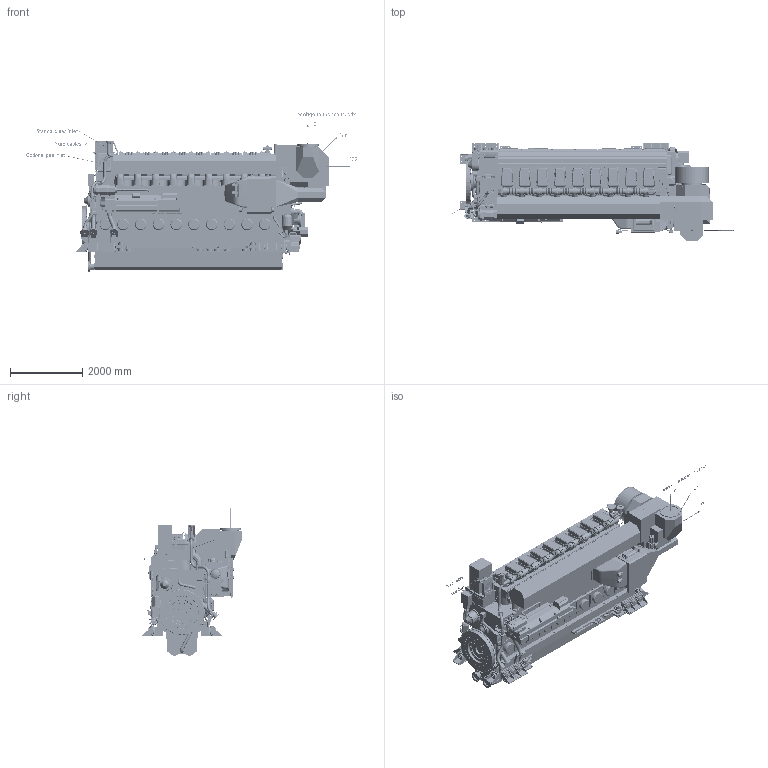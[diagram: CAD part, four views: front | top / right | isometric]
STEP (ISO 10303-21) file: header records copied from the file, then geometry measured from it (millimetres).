
FILE_DESCRIPTION(/* description */ (''),/* implementation_level */ '2;1');
FILE_NAME(/* name */ 'DAAF384942_A.stp',/* time_stamp */ '2021-12-30T13:26:57+02:00',/* author */ (''),/* organization */ (''),/* preprocessor_version */ 'ST-DEVELOPER v16.7',/* originating_system */ 'SIEMENS PLM Software NX 1915',/* authorisation */ '');
FILE_SCHEMA (('AUTOMOTIVE_DESIGN { 1 0 10303 214 3 1 1 1 }'));
Products named in the file (114): 001240145-A_STEEL PLATE; 001240140-A_STEEL PLATE; 001240143-A_STEEL PLATE; PAAC000063--_HEXAGON HEAD SCREW; 0046L028001-F_RUBBER ELEMENT; 001210004-B_0005_STEEL SHEET; 001860179-A_HOLLOW BAR; 001240079--_STEEL PLATE; 001510045-A_ROUND BAR; PAAF363131--_PAAF124545 COMPR 4MM; PAAF363124--_PAAF124545 COMPR 5MM; PAAC000444--_HEXAGON HEAD BOLT; PAAF681233--_AIR INLET PIPE; PABA142427--_Control air system WG_BP TCF; PAAF776393--_AIR INLET PIPE; PAAF074388--_END COVER; PAAF078619--_LT-WATER PIPES; PAAF243367--_GOVERNOR; PAAF486326--_AIR SYSTEM; PAAF087122--_LEAK FUEL PIPES; PAAF093447--_SEPARATOR CONNECTIONS; PAAF975683--_Gas feed pipe double wall; PAAF270351--_EQUIPMENT; PABA066964--_Double wall gas vent system; PAAF247483--_OIL PIPE; PAAF087114--_LEAK FUEL SYSTEM; PAAF978290--_Covers top shields 9L; PAAF906204--_SHUT-DOWN MECHANISM; PAAF068492--_AIR VENT SYSTEM; PABA065520--_Counter flange for HT preheating_ connection 406; PAAF087082--_A_LEAK FUEL PIPES; PAAF397145--_COVERS; PAAF322125--_TURBOCHARGER BRACKET; PAAF675626--_OIL MIST DETECTOR; PAAF063771--_COVERS; PAAF280989--_COVERS; PAAF976976--_Cylinder head covers 9L; PAAF243686--_CENTRIFUGAL FILTER; PAAF243623--_FUEL PIPES; PAAF291916--_INTERMEDIATE GEAR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
Assembly tree (308 placements, depth 6):
  DAAF384942_A-Outline drawing
    PABA332741--_W9L34DFC-TCF-DRY
      PAAF111190-A_LUBE OIL PIPES
      PAAF247485--_LUBRICATING OIL PUMP  x2
      PAAF093490--_LUBE OIL PIPES
      PAAF087136--_LUBRICATING OIL PIPES
      PAAF074478--_DRY SUMP
      PAAF063633--_ENGINE BLOCK  x2
      PAAF247479--_FRAME
      PAAF559689--_COVER
      PAAF271372--_MOTOR
      PAAF977184--_Control air system WG_BP system TC FE
      PAAF078621--_LT-WATER PIPES
      PAAF683775--_AIR INLET BOX
      PAAF245469--_LUBE OIL MODULE
      PAAF078074--_TURNING DEVICE
      PAAF243671--_PUMP COVER
      PAAF975946--_gas pipe between cylinders  x8
      PAAF202746--_CLEANING DEVICE
      PAAF975926--_main gas admission valve  x9
      PAAF721110--_DRAIN PIPE
      PAAF064319--_COVERS
      PAAF066759--_INSULATION BOX
      PAAF211503--_WASTE GATE _ BY-PASS
      PAAF238216--_CRANKSHAFT
      PAAF977365--_Electrical equipment for side cover
      PAAF277184--_TURBOCHARGER
      PAAF909498--_LOCAL CONTROL PANEL
      PAAF895907--_COVERS
      PAAF078241--_COVER
      PAAF671497--_AIR VENT PIPE
      PABA041419--_Lube oil system forr ABBA155 in free end
      PABA135981--_Electrical equipment for lube oil module_ TCFE
      PABA036864--_Cylinder heads multiducts cylinder liner
      PAAF093819--_WATER CONNECTION
      PAAF078708--_ACTUATOR
      PAAF906213--_NITROGEN GAS PIPE
      PAAF093585--_STARTING AIR PIPES
      PAAF906214--_ELECTRICAL EQUIPMENT
      PAAF087111--_LEAK FUEL SYSTEM
      PAAF291916--_INTERMEDIATE GEAR
      PAAF243623--_FUEL PIPES
      PAAF243686--_CENTRIFUGAL FILTER
      PAAF976976--_Cylinder head covers 9L
      PAAF280989--_COVERS
      PAAF063771--_COVERS
      PAAF675626--_OIL MIST DETECTOR
      PAAF322125--_TURBOCHARGER BRACKET
      PAAF397145--_COVERS
      PAAF087082--_A_LEAK FUEL PIPES
      PABA065520--_Counter flange for HT preheating_ connection 406
      PAAF068492--_AIR VENT SYSTEM
      PAAF906204--_SHUT-DOWN MECHANISM
      PAAF978290--_Covers top shields 9L
      PAAF087114--_LEAK FUEL SYSTEM
      PAAF247483--_OIL PIPE
      PABA066964--_Double wall gas vent system
      PAAF270351--_EQUIPMENT
      PAAF975683--_Gas feed pipe double wall
      PAAF093447--_SEPARATOR CONNECTIONS
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Bounding box: 9181.01 x 2741.77 x 4410.58 mm (x, y, z)
Volume: 39568277815.8 mm3; surface area: 443879973.7 mm2
Topology: 856 solids, 868 shells, 27442 faces, 67751 edges, 43532 vertices
Faces by surface type: plane 13544, cylinder 7734, bspline 2244, cone 2121, extrusion 877, torus 862, sphere 55, revolution 5
Full cylindrical faces by diameter (mm): 0.7 x2, 1 x9, 2 x2, 3 x3, 4.9 x1, 6 x14, 6.9 x1, 7 x4, 8 x27, 8.1 x1, 9 x5, 9.7 x1, 10 x3, 11 x8, 11.908 x1, 12 x42, 12.3 x1, 13.2 x4, 13.5 x4, 14 x265, 14.5 x1, 14.989 x2, 15 x16, 15.5 x36, 15.6 x4, 15.7 x4, 16 x114, 16.376 x1, 16.8 x1, 17.5 x2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
Entity records: 788164 total; most frequent: CARTESIAN_POINT 340730, ORIENTED_EDGE 90826, DIRECTION 83624, EDGE_CURVE 45413, VERTEX_POINT 30434, AXIS2_PLACEMENT_3D 28865, VECTOR 25891, LINE 25014
